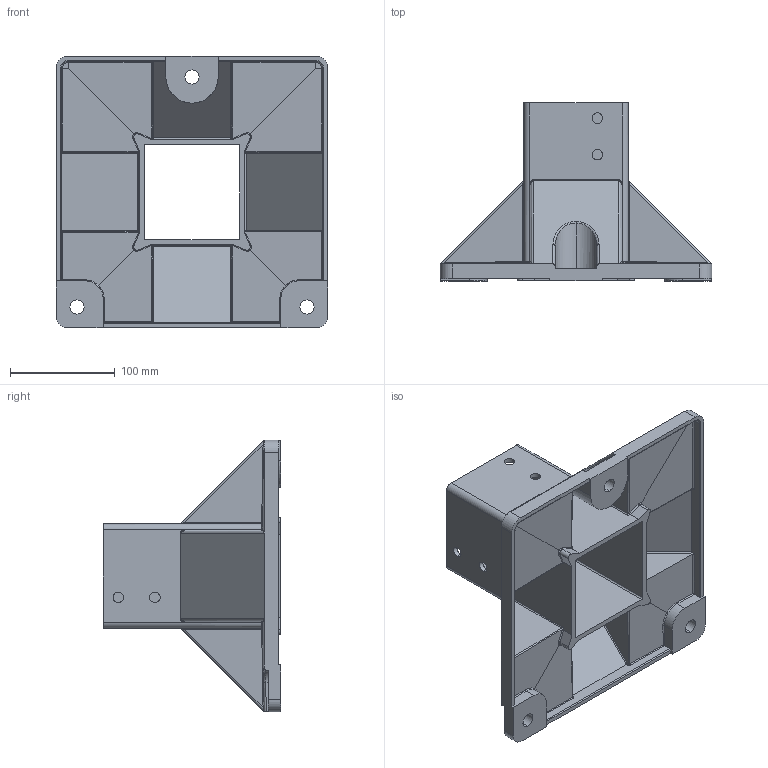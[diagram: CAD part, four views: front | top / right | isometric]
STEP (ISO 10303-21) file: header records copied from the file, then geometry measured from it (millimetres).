
FILE_DESCRIPTION (( 'STEP AP214' ), '1' );
FILE_NAME ('FABER - EC260 88.STEP', '2017-04-05T12:16:05', ( '' ), ( '' ), 'SwSTEP 2.0', 'SolidWorks 2016', '' );
FILE_SCHEMA (( 'AUTOMOTIVE_DESIGN' ));
Length unit declared in the file: millimetre
Products named in the file (1): FABER - EC260 88
Bounding box: 260 x 170 x 260 mm (x, y, z)
Volume: 855268.8 mm3; surface area: 337065.9 mm2
Topology: 1 solids, 1 shells, 329 faces, 833 edges, 494 vertices
Faces by surface type: cylinder 146, plane 92, bspline 67, sphere 16, cone 4, torus 4
Entity records: 11071 total; most frequent: CARTESIAN_POINT 3902, ORIENTED_EDGE 1634, DIRECTION 1368, EDGE_CURVE 817, VERTEX_POINT 490, AXIS2_PLACEMENT_3D 482, LINE 404, VECTOR 404
